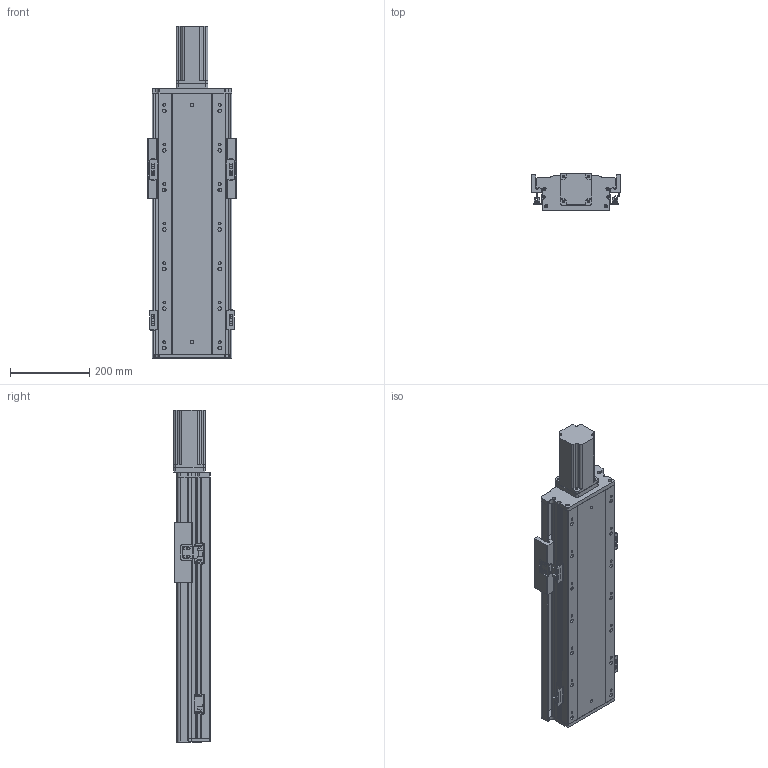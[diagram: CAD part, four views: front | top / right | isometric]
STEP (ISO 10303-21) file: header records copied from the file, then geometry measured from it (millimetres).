
FILE_DESCRIPTION (( 'STEP AP203' ), '1' );
FILE_NAME ('RY170FB-L2510-300-MK.SLDASM_350.step', '2021-02-22T08:56:27', ( '盈信电脑' ), ( '东莞市道滘镇水果街19号' ), 'SwSTEP 2.0', 'SolidWorks 2012', '' );
FILE_SCHEMA (( 'CONFIG_CONTROL_DESIGN' ));
Length unit declared in the file: millimetre
Products named in the file (16): RY140FB-覜茼え; RY140-674嫖萇耀輸; RY170FB-L2510-300-MK.SLDASM_350; RY140直线电机感应器674光电安装座; 覜茼ん674; RY140FB-674嫖萇覜茼え; 侂狟750W萇儂ㄗ80遺ㄘ; RY170FB-300奻裔_350; RY170FB-铝滑块(25丝杆）; 750W萇儂梓袧蛌諉啣; 滅袉蝶18-28; RY170FB-ヶ裔啣; 滅袉蝶18-10; RY170FB-綴裔啣; RY170FB-300倰第菁釱-MK_350
Assembly tree (20 placements, depth 3):
  RY170FB-L2510-300-MK.SLDASM_350
    RY170FB-300倰第菁釱-MK_350
    RY170FB-綴裔啣
    RY170FB-ヶ裔啣
    滅袉蝶18-28
    滅袉蝶18-10
    RY170FB-铝滑块(25丝杆）
    RY170FB-300奻裔_350
    750W萇儂梓袧蛌諉啣
    侂狟750W萇儂ㄗ80遺ㄘ
    RY140-674嫖萇耀輸  x2
      覜茼ん674
      RY140直线电机感应器674光电安装座
    RY140FB-674嫖萇覜茼え
    RY140-674嫖萇耀輸  x2
      覜茼ん674
      RY140直线电机感应器674光电安装座
    RY140FB-覜茼え
Bounding box: 225 x 93.2 x 839.5 mm (x, y, z)
Volume: 4886180.2 mm3; surface area: 1308916.9 mm2
Topology: 21 solids, 21 shells, 1573 faces, 4461 edges, 2880 vertices
Faces by surface type: plane 761, cylinder 720, cone 92
Entity records: 39481 total; most frequent: CARTESIAN_POINT 8264, ORIENTED_EDGE 6190, DIRECTION 6181, EDGE_CURVE 3095, AXIS2_PLACEMENT_3D 2237, VERTEX_POINT 2034, LINE 1707, VECTOR 1707
